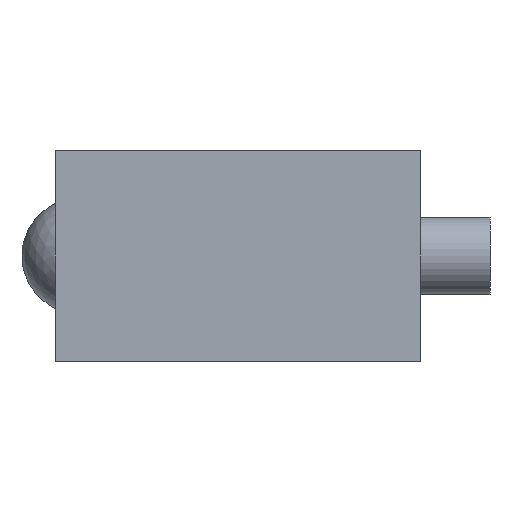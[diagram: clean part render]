
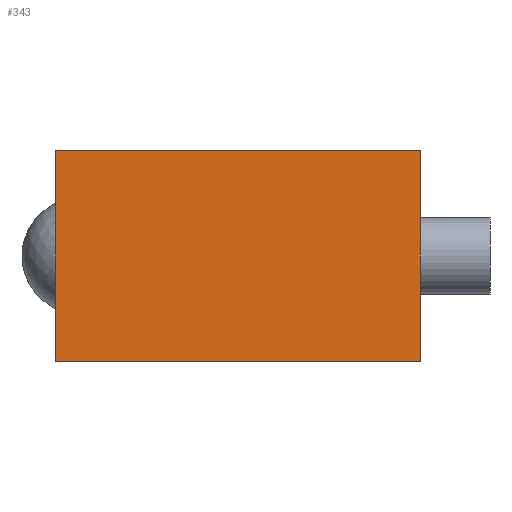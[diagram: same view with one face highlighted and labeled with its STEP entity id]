
A CAD part, left-side view. The second image highlights one B-rep face of the part: STEP entity #343.
In plain terms, the highlighted planar face has unit normal (-1, 0, 0).
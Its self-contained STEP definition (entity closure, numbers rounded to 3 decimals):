
#21=LINE('',#562,#37);
#27=LINE('',#577,#43);
#31=LINE('',#589,#47);
#33=LINE('',#592,#49);
#37=VECTOR('',#474,10.);
#43=VECTOR('',#484,10.);
#47=VECTOR('',#500,10.);
#49=VECTOR('',#504,10.);
#75=PLANE('',#405);
#98=FACE_OUTER_BOUND('',#134,.T.);
#134=EDGE_LOOP('',(#276,#277,#278,#279));
#172=VERTEX_POINT('',#560);
#173=VERTEX_POINT('',#561);
#179=VERTEX_POINT('',#574);
#180=VERTEX_POINT('',#576);
#201=EDGE_CURVE('',#172,#173,#21,.T.);
#208=EDGE_CURVE('',#179,#180,#27,.T.);
#214=EDGE_CURVE('',#180,#172,#31,.T.);
#216=EDGE_CURVE('',#173,#179,#33,.T.);
#276=ORIENTED_EDGE('',*,*,#208,.F.);
#277=ORIENTED_EDGE('',*,*,#216,.F.);
#278=ORIENTED_EDGE('',*,*,#201,.F.);
#279=ORIENTED_EDGE('',*,*,#214,.F.);
#343=ADVANCED_FACE('',(#98),#75,.T.);
#405=AXIS2_PLACEMENT_3D('',#591,#502,#503);
#474=DIRECTION('',(0.,0.,1.));
#484=DIRECTION('',(0.,0.,-1.));
#500=DIRECTION('',(0.,1.,0.));
#502=DIRECTION('center_axis',(-1.,0.,0.));
#503=DIRECTION('ref_axis',(0.,-1.,0.));
#504=DIRECTION('',(0.,-1.,0.));
#560=CARTESIAN_POINT('',(-150.,18.9,-10.9));
#561=CARTESIAN_POINT('',(-150.,18.9,10.9));
#562=CARTESIAN_POINT('',(-150.,18.9,0.));
#574=CARTESIAN_POINT('',(-150.,-18.9,10.9));
#576=CARTESIAN_POINT('',(-150.,-18.9,-10.9));
#577=CARTESIAN_POINT('',(-150.,-18.9,0.));
#589=CARTESIAN_POINT('',(-150.,18.9,-10.9));
#591=CARTESIAN_POINT('Origin',(-150.,18.9,0.));
#592=CARTESIAN_POINT('',(-150.,18.9,10.9));
